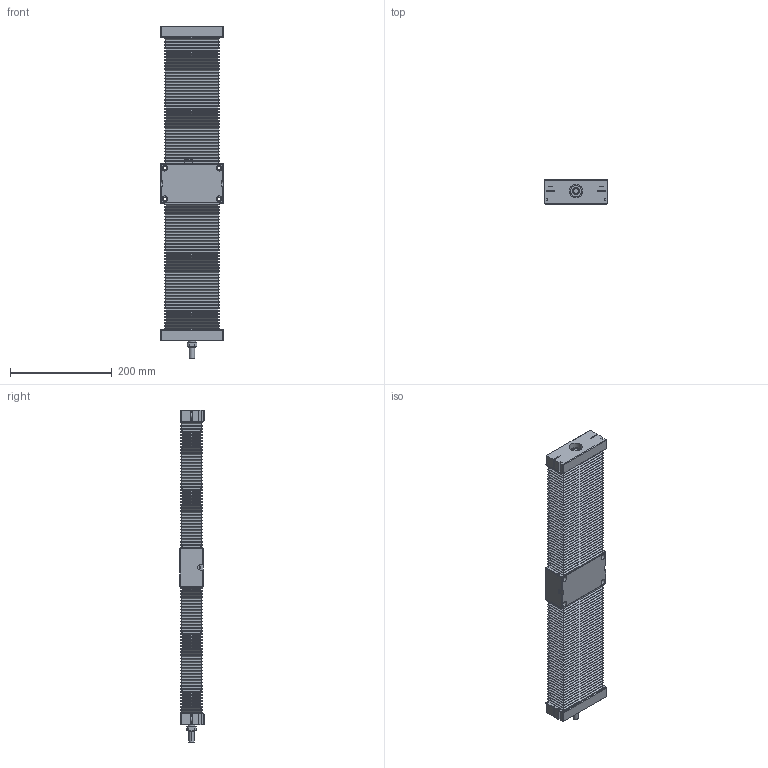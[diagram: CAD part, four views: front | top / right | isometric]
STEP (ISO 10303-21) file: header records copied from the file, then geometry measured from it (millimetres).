
FILE_DESCRIPTION (( 'STEP AP214' ), '1' );
FILE_NAME ('TKC1610B-300H0C-Ä£×é.step', '2025-08-25T08:37:58', ( '' ), ( '' ), 'SwSTEP 2.0', 'SolidWorks 2024', '' );
FILE_SCHEMA (( 'AUTOMOTIVE_DESIGN' ));
Length unit declared in the file: millimetre
Products named in the file (4): TKC16-02; TKC16-300-01; TKC16-300-03; TKC1610B-300H0C-模组
Assembly tree (4 placements, depth 2):
  TKC1610B-300H0C-模组
    TKC16-02
    TKC16-300-01
    TKC16-300-03  x2
Bounding box: 122 x 48 x 652.5 mm (x, y, z)
Volume: 1886385.4 mm3; surface area: 636353.8 mm2
Topology: 10 solids, 14 shells, 1752 faces, 3900 edges, 2215 vertices
Faces by surface type: plane 1304, cylinder 373, cone 36, torus 28, bspline 11
Entity records: 45319 total; most frequent: CARTESIAN_POINT 17818, ORIENTED_EDGE 5616, DIRECTION 5404, EDGE_CURVE 2808, VECTOR 1964, LINE 1964, AXIS2_PLACEMENT_3D 1720, VERTEX_POINT 1675
